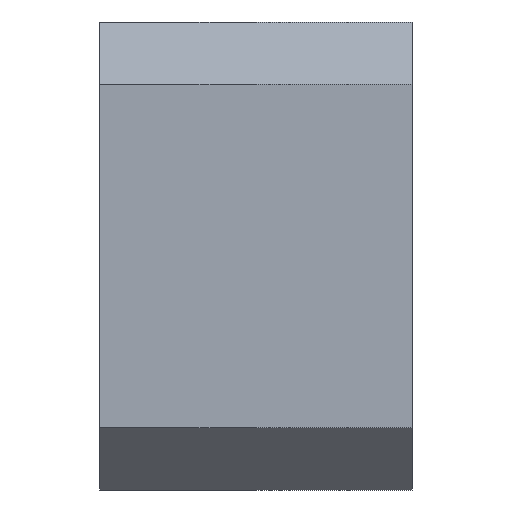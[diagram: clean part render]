
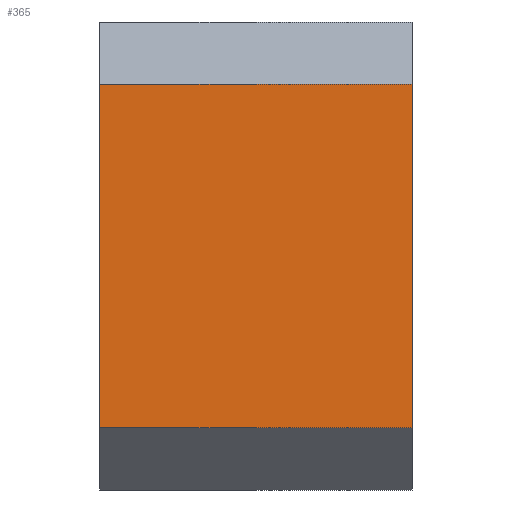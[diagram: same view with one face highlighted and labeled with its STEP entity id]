
A CAD part, left-side view. The second image highlights one B-rep face of the part: STEP entity #365.
In plain terms, the highlighted planar face has unit normal (-1, 0, 0).
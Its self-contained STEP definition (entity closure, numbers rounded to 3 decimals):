
#29 = DIRECTION ( 'NONE',  ( 0., 0., 1. ) ) ;
#43 = EDGE_CURVE ( 'NONE', #137, #428, #341, .T. ) ;
#51 = VECTOR ( 'NONE', #143, 1000. ) ;
#54 = PLANE ( 'NONE',  #321 ) ;
#60 = LINE ( 'NONE', #236, #51 ) ;
#61 = EDGE_CURVE ( 'NONE', #231, #137, #268, .T. ) ;
#91 = DIRECTION ( 'NONE',  ( 0., 1., 0. ) ) ;
#93 = ORIENTED_EDGE ( 'NONE', *, *, #43, .T. ) ;
#98 = CARTESIAN_POINT ( 'NONE',  ( -17., 5., -5.5 ) ) ;
#116 = VECTOR ( 'NONE', #91, 1000. ) ;
#126 = DIRECTION ( 'NONE',  ( 0., 0., -1. ) ) ;
#133 = CARTESIAN_POINT ( 'NONE',  ( -17., 5., 5.5 ) ) ;
#137 = VERTEX_POINT ( 'NONE', #482 ) ;
#143 = DIRECTION ( 'NONE',  ( 0., -1., 0. ) ) ;
#175 = DIRECTION ( 'NONE',  ( 1., 0., 0. ) ) ;
#198 = CARTESIAN_POINT ( 'NONE',  ( -17., -5., -5.5 ) ) ;
#212 = DIRECTION ( 'NONE',  ( 0., 0., 1. ) ) ;
#231 = VERTEX_POINT ( 'NONE', #198 ) ;
#235 = CARTESIAN_POINT ( 'NONE',  ( -17., 5., -7.5 ) ) ;
#236 = CARTESIAN_POINT ( 'NONE',  ( -17., 5., -5.5 ) ) ;
#255 = CARTESIAN_POINT ( 'NONE',  ( -17., 5., 5.5 ) ) ;
#267 = VECTOR ( 'NONE', #212, 1000. ) ;
#268 = LINE ( 'NONE', #291, #267 ) ;
#281 = EDGE_LOOP ( 'NONE', ( #398, #468, #409, #93 ) ) ;
#291 = CARTESIAN_POINT ( 'NONE',  ( -17., -5., -7.5 ) ) ;
#321 = AXIS2_PLACEMENT_3D ( 'NONE', #235, #175, #126 ) ;
#341 = LINE ( 'NONE', #133, #116 ) ;
#346 = EDGE_CURVE ( 'NONE', #390, #231, #60, .T. ) ;
#351 = FACE_OUTER_BOUND ( 'NONE', #281, .T. ) ;
#365 = ADVANCED_FACE ( 'NONE', ( #351 ), #54, .F. ) ;
#390 = VERTEX_POINT ( 'NONE', #98 ) ;
#398 = ORIENTED_EDGE ( 'NONE', *, *, #420, .F. ) ;
#409 = ORIENTED_EDGE ( 'NONE', *, *, #61, .T. ) ;
#413 = LINE ( 'NONE', #422, #431 ) ;
#420 = EDGE_CURVE ( 'NONE', #390, #428, #413, .T. ) ;
#422 = CARTESIAN_POINT ( 'NONE',  ( -17., 5., -7.5 ) ) ;
#428 = VERTEX_POINT ( 'NONE', #255 ) ;
#431 = VECTOR ( 'NONE', #29, 1000. ) ;
#468 = ORIENTED_EDGE ( 'NONE', *, *, #346, .T. ) ;
#482 = CARTESIAN_POINT ( 'NONE',  ( -17., -5., 5.5 ) ) ;
